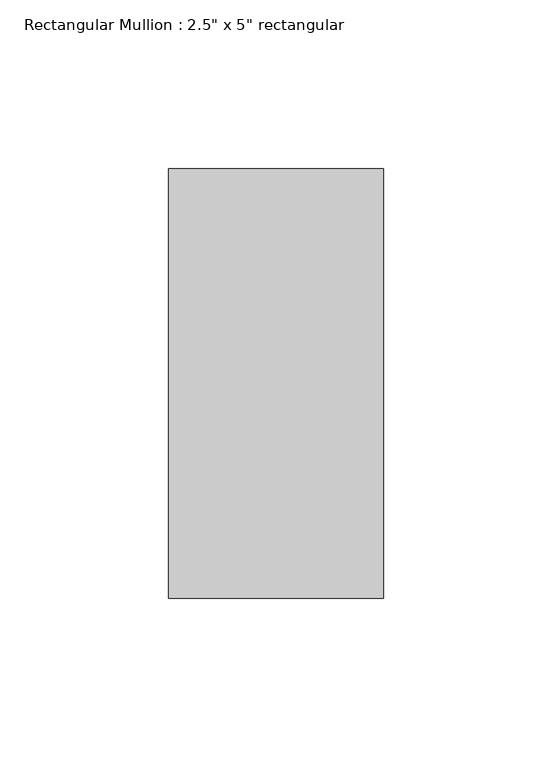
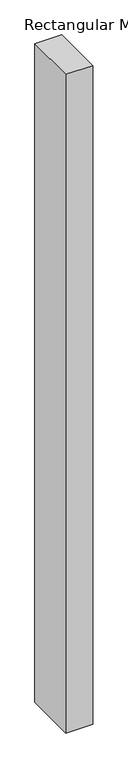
"""IFC4 building model written with IfcOpenShell, lengths in millimetres: member geometry."""

from ifc_helpers import new_model, si_unit, frame, origin, place, context, project, spatial, polyline, outline, extrude, source, transform, mapped, element, save


def member_4f99afef(model_context):
    return source(origin(), model_context, "Body", "SweptSolid", [
        extrude(outline(polyline([(0.0, 63.5), (0.0, -63.5), (-63.5, -63.5), (-63.5, 63.5), (0.0, 63.5)])), frame((0.0, 0.0, -1651.0), z_axis=(0.0, 0.0, 1.0), x_axis=(1.0, 0.0, 0.0)), (0.0, 0.0, 1.0), 1651.0),
    ])


if __name__ == "__main__":
    model = new_model("IFC4")
    model_context = context("Model", 3, world=origin())
    ifc_project = project(units=[si_unit("LENGTHUNIT", "METRE", prefix="MILLI")], contexts=[model_context])
    site = spatial("IfcSite", under=ifc_project)
    building = spatial("IfcBuilding", under=site)
    placement = place(None, origin())
    member_shape = member_4f99afef(model_context)
    element("IfcMember", 1, ObjectType="Rectangular Mullion : 2.5\" x 5\" rectangular", at=placement, inside=building, context=model_context, shape_type="MappedRepresentation", body=[
        mapped(member_shape, transform((0.0, 0.0, 0.0), x_axis=(1.0, 0.0, 0.0), y_axis=(0.0, 1.0, 0.0), z_axis=(0.0, 0.0, 1.0))),
    ])
    save(model, "model.ifc")
